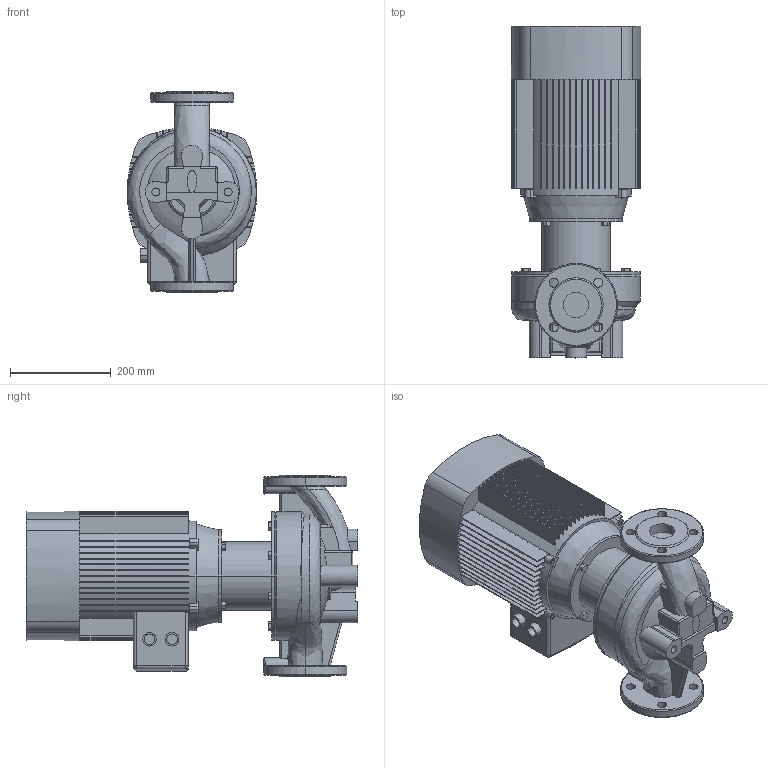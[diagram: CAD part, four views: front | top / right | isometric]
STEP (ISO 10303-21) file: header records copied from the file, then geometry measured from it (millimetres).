
FILE_DESCRIPTION (( 'STEP AP203' ), '1' );
FILE_NAME ('TD50-49G_2.STEP', '2022-05-02T14:53:57', ( '' ), ( '' ), 'SwSTEP 2.0', 'SolidWorks 2019', '' );
FILE_SCHEMA (( 'CONFIG_CONTROL_DESIGN' ));
Length unit declared in the file: millimetre
Products named in the file (4): Pr_ch 50_TD50-49G_2; ED_B14_YE2-132S1-2 (5.5); TD50-49G_2; Fon_50_TD50-49G_2
Assembly tree (3 placements, depth 2):
  TD50-49G_2
    Pr_ch 50_TD50-49G_2
    Fon_50_TD50-49G_2
    ED_B14_YE2-132S1-2 (5.5)
Bounding box: 257 x 660 x 400 mm (x, y, z)
Volume: 25822794.4 mm3; surface area: 1505391.5 mm2
Topology: 3 solids, 3 shells, 651 faces, 1774 edges, 1164 vertices
Faces by surface type: plane 426, cylinder 157, bspline 26, torus 25, cone 11, sphere 6
Entity records: 26717 total; most frequent: CARTESIAN_POINT 9677, ORIENTED_EDGE 3544, DIRECTION 3450, EDGE_CURVE 1772, AXIS2_PLACEMENT_3D 1217, VERTEX_POINT 1164, LINE 1016, VECTOR 1016
